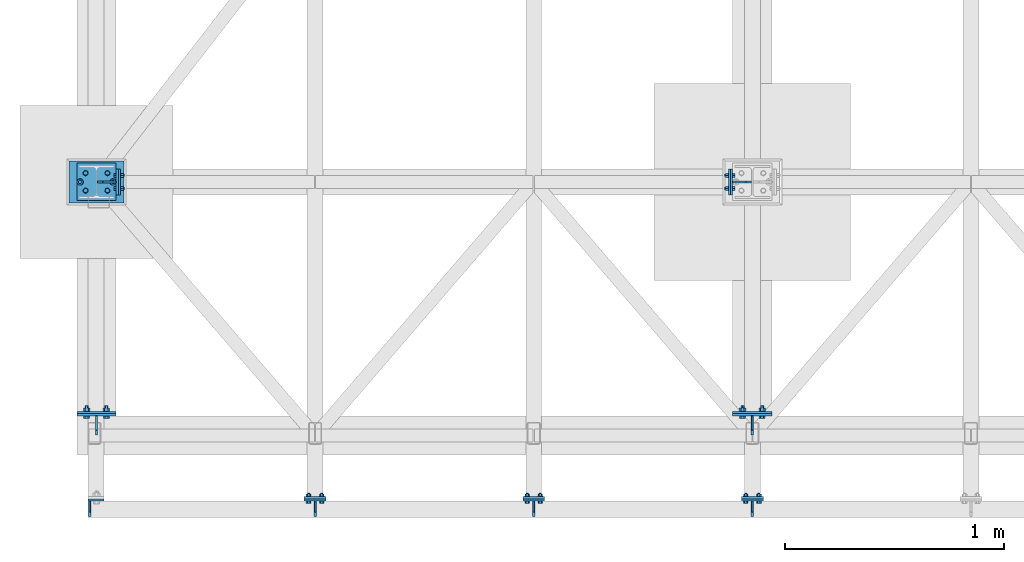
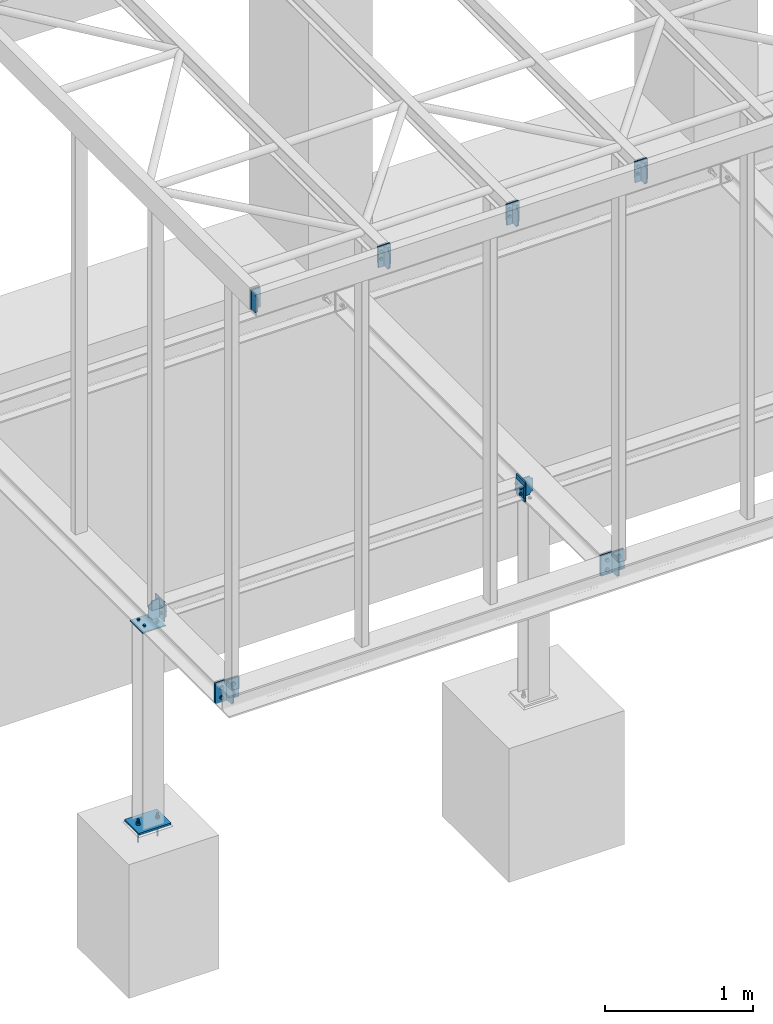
# One storey, part 12 of 23: 25 discrete accessories, 9 mechanical fasteners, 9 elements without a shape of their own.
"""IFC2X3 building model written with IfcOpenShell, lengths in millimetres."""

from ifc_helpers import new_model, si_unit, frame, frame_2d, origin_with_axes, origin_2d_with_axis, place, context, subcontext, project, spatial, polyline, circle_curve, parameter, trimmed, segment, composite_curve, circle, outline, extrude, source, transform, mapped, material, type_object, element, aggregate, save


model = new_model("IFC2X3")

# Units and contexts
model_context = context("Model", 3, precision=1e-05, world=origin_with_axes())
body_context = subcontext(model_context, "Body", "Model", "MODEL_VIEW")
ifc_project = project(units=[si_unit("LENGTHUNIT", "METRE", prefix="MILLI"), si_unit("AREAUNIT", "SQUARE_METRE"), si_unit("VOLUMEUNIT", "CUBIC_METRE"), si_unit("MASSUNIT", "GRAM", prefix="KILO"), si_unit("TIMEUNIT", "SECOND"), si_unit("PLANEANGLEUNIT", "RADIAN"), si_unit("SOLIDANGLEUNIT", "STERADIAN"), si_unit("THERMODYNAMICTEMPERATUREUNIT", "DEGREE_CELSIUS"), si_unit("LUMINOUSINTENSITYUNIT", "LUMEN")], contexts=[model_context])

# Site, building, storey
site_placement = place(None, origin_with_axes())
site = spatial("IfcSite", under=ifc_project, at=site_placement, Name="Undefined", CompositionType="ELEMENT")
building_placement = place(site_placement, origin_with_axes())
building = spatial("IfcBuilding", under=site, at=building_placement, Name="Undefined", CompositionType="ELEMENT")
storey_placement = place(building_placement, origin_with_axes())
storey = spatial("IfcBuildingStorey", under=building, at=storey_placement, Name="Undefined", CompositionType="ELEMENT", Elevation=0.0)

# Assembly, discrete accessories
assembly_1_placement = place(storey_placement, origin_with_axes())
assembly_1 = element("IfcElementAssembly", 1, at=assembly_1_placement, inside=storey, Name="Steel Assembly", AssemblyPlace="NOTDEFINED", PredefinedType="RIGID_FRAME")
ifc_material_1 = material(Name="STEEL/S235JR")
discrete_accessory_type_1 = type_object("IfcDiscreteAccessoryType", Name="PLECH")
discrete_accessory_1_placement = place(assembly_1_placement, frame((19.5, -200.0, 3289.5), z_axis=(1.0, 0.0, 0.0), x_axis=(0.0, -1.0, 0.0)))
discrete_accessory_1 = element("IfcDiscreteAccessory", 2, at=discrete_accessory_1_placement, type_object=discrete_accessory_type_1, material=ifc_material_1, Name="PLECH", ObjectType="PL8*70", context=body_context, shape_type="SweptSolid", body=[
    extrude(outline(composite_curve([segment(polyline([(0.0, 0.0), (49.5, 0.0)]), True, "CONTINUOUS"), segment(trimmed(circle_curve(frame_2d((69.5, 0.0), x_axis=(-1.0, 0.0)), 20.0), [parameter(0.0)], [parameter(4.71238898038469)], False, "PARAMETER"), True, "CONTINUOUS"), segment(polyline([(69.5, 20.0), (69.5, 139.0)]), True, "CONTINUOUS"), segment(trimmed(circle_curve(frame_2d((69.5, 159.0), x_axis=(0.0, -1.0)), 20.0), [parameter(0.0)], [parameter(4.71238898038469)], False, "PARAMETER"), True, "CONTINUOUS"), segment(polyline([(49.5, 159.0), (0.0, 159.0), (0.0, 0.0)]), True, "DISCONTINUOUS")], self_intersect=False)), frame((0.0, 0.0, -4.0), z_axis=(0.0, 0.0, 1.0), x_axis=(1.0, 0.0, 0.0)), (0.0, 0.0, 1.0), 8.0),
])
discrete_accessory_2_placement = place(assembly_1_placement, frame((85.0, -195.0, 3130.0), z_axis=(0.0, -1.0, 0.0), x_axis=(0.0, 0.0, 1.0)))
discrete_accessory_2 = element("IfcDiscreteAccessory", 3, at=discrete_accessory_2_placement, type_object=discrete_accessory_type_1, material=ifc_material_1, Name="PLECH", ObjectType="PL10*75", context=body_context, shape_type="SweptSolid", body=[
    extrude(outline(polyline([(0.0, 0.0), (160.0, 0.0), (160.0, 75.0), (0.0, 75.0), (0.0, 0.0)])), frame((0.0, 0.0, -5.0), z_axis=(0.0, 0.0, 1.0), x_axis=(1.0, 0.0, 0.0)), (0.0, 0.0, 1.0), 10.0),
])
discrete_accessory_3_placement = place(assembly_1_placement, frame((1050.0, -200.0, 3289.5), z_axis=(1.0, 0.0, 0.0), x_axis=(0.0, -1.0, 0.0)))
discrete_accessory_3 = element("IfcDiscreteAccessory", 4, at=discrete_accessory_3_placement, type_object=discrete_accessory_type_1, material=ifc_material_1, Name="PLECH", ObjectType="PL8*70", context=body_context, shape_type="SweptSolid", body=[
    extrude(outline(composite_curve([segment(polyline([(0.0, 0.0), (49.5, 0.0)]), True, "CONTINUOUS"), segment(trimmed(circle_curve(frame_2d((69.5, 0.0), x_axis=(-1.0, 0.0)), 20.0), [parameter(0.0)], [parameter(4.71238898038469)], False, "PARAMETER"), True, "CONTINUOUS"), segment(polyline([(69.5, 20.0), (69.5, 139.0)]), True, "CONTINUOUS"), segment(trimmed(circle_curve(frame_2d((69.5, 159.0), x_axis=(0.0, -1.0)), 20.0), [parameter(0.0)], [parameter(4.71238898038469)], False, "PARAMETER"), True, "CONTINUOUS"), segment(polyline([(49.5, 159.0), (0.0, 159.0), (0.0, 0.0)]), True, "DISCONTINUOUS")], self_intersect=False)), frame((0.0, 0.0, -4.0), z_axis=(0.0, 0.0, 1.0), x_axis=(1.0, 0.0, 0.0)), (0.0, 0.0, 1.0), 8.0),
])

# Assembly, discrete accessory
assembly_2_placement = place(storey_placement, origin_with_axes())
assembly_2 = element("IfcElementAssembly", 5, at=assembly_2_placement, inside=storey, Name="Steel Assembly", AssemblyPlace="NOTDEFINED", PredefinedType="RIGID_FRAME")
discrete_accessory_4_placement = place(assembly_2_placement, frame((1000.0, -185.0, 3166.5), z_axis=(0.0, 1.0, 0.0), x_axis=(0.0, 0.0, 1.0)))
discrete_accessory_4 = element("IfcDiscreteAccessory", 6, at=discrete_accessory_4_placement, type_object=discrete_accessory_type_1, material=ifc_material_1, Name="PLECH", ObjectType="PL10*100", context=body_context, shape_type="SweptSolid", body=[
    extrude(outline(polyline([(0.0, 0.0), (127.0, 0.0), (127.0, 100.0), (-9.09494701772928e-13, 100.0), (0.0, 0.0)])), frame((0.0, 0.0, -5.0), z_axis=(0.0, 0.0, 1.0), x_axis=(1.0, 0.0, 0.0)), (0.0, 0.0, 1.0), 10.0),
])
aggregate(assembly_2, [discrete_accessory_4])

# Discrete accessory
discrete_accessory_5_placement = place(assembly_1_placement, frame((1000.0, -195.0, 3127.5), z_axis=(0.0, 1.0, 0.0), x_axis=(0.0, 0.0, 1.0)))
discrete_accessory_5 = element("IfcDiscreteAccessory", 7, at=discrete_accessory_5_placement, type_object=discrete_accessory_type_1, material=ifc_material_1, Name="PLECH", ObjectType="PL10*100", context=body_context, shape_type="SweptSolid", body=[
    extrude(outline(polyline([(0.0, 0.0), (166.000015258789, 0.0), (166.000015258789, 100.0), (-9.09494701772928e-13, 100.0), (0.0, 0.0)])), frame((0.0, 0.0, -5.0), z_axis=(0.0, 0.0, 1.0), x_axis=(1.0, 0.0, 0.0)), (0.0, 0.0, 1.0), 10.0),
])

discrete_accessory_6_placement = place(assembly_1_placement, frame((2050.0, -200.0, 3289.5), z_axis=(1.0, 0.0, 0.0), x_axis=(0.0, -1.0, 0.0)))
discrete_accessory_6 = element("IfcDiscreteAccessory", 8, at=discrete_accessory_6_placement, type_object=discrete_accessory_type_1, material=ifc_material_1, Name="PLECH", ObjectType="PL8*70", context=body_context, shape_type="SweptSolid", body=[
    extrude(outline(composite_curve([segment(polyline([(0.0, 0.0), (49.5, 0.0)]), True, "CONTINUOUS"), segment(trimmed(circle_curve(frame_2d((69.5, 0.0), x_axis=(-1.0, 0.0)), 20.0), [parameter(0.0)], [parameter(4.71238898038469)], False, "PARAMETER"), True, "CONTINUOUS"), segment(polyline([(69.5, 20.0), (69.5, 139.0)]), True, "CONTINUOUS"), segment(trimmed(circle_curve(frame_2d((69.5, 159.0), x_axis=(0.0, -1.0)), 20.0), [parameter(0.0)], [parameter(4.71238898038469)], False, "PARAMETER"), True, "CONTINUOUS"), segment(polyline([(49.5, 159.0), (0.0, 159.0), (0.0, 0.0)]), True, "DISCONTINUOUS")], self_intersect=False)), frame((0.0, 0.0, -4.0), z_axis=(0.0, 0.0, 1.0), x_axis=(1.0, 0.0, 0.0)), (0.0, 0.0, 1.0), 8.0),
])

# Assembly, discrete accessory
assembly_3_placement = place(storey_placement, origin_with_axes())
assembly_3 = element("IfcElementAssembly", 9, at=assembly_3_placement, inside=storey, Name="Steel Assembly", AssemblyPlace="NOTDEFINED", PredefinedType="RIGID_FRAME")
discrete_accessory_7_placement = place(assembly_3_placement, frame((2000.0, -185.0, 3166.5), z_axis=(0.0, 1.0, 0.0), x_axis=(0.0, 0.0, 1.0)))
discrete_accessory_7 = element("IfcDiscreteAccessory", 10, at=discrete_accessory_7_placement, type_object=discrete_accessory_type_1, material=ifc_material_1, Name="PLECH", ObjectType="PL10*100", context=body_context, shape_type="SweptSolid", body=[
    extrude(outline(polyline([(0.0, 0.0), (127.0, 0.0), (127.0, 100.0), (-9.09494701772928e-13, 100.0), (0.0, 0.0)])), frame((0.0, 0.0, -5.0), z_axis=(0.0, 0.0, 1.0), x_axis=(1.0, 0.0, 0.0)), (0.0, 0.0, 1.0), 10.0),
])
aggregate(assembly_3, [discrete_accessory_7])

# Discrete accessory
discrete_accessory_8_placement = place(assembly_1_placement, frame((2000.0, -195.0, 3127.5), z_axis=(0.0, 1.0, 0.0), x_axis=(0.0, 0.0, 1.0)))
discrete_accessory_8 = element("IfcDiscreteAccessory", 11, at=discrete_accessory_8_placement, type_object=discrete_accessory_type_1, material=ifc_material_1, Name="PLECH", ObjectType="PL10*100", context=body_context, shape_type="SweptSolid", body=[
    extrude(outline(polyline([(0.0, 0.0), (166.000015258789, 0.0), (166.000015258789, 100.0), (-9.09494701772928e-13, 100.0), (0.0, 0.0)])), frame((0.0, 0.0, -5.0), z_axis=(0.0, 0.0, 1.0), x_axis=(1.0, 0.0, 0.0)), (0.0, 0.0, 1.0), 10.0),
])

# Assembly, discrete accessory
assembly_4_placement = place(storey_placement, origin_with_axes())
assembly_4 = element("IfcElementAssembly", 12, at=assembly_4_placement, inside=storey, Name="Steel Assembly", AssemblyPlace="NOTDEFINED", PredefinedType="RIGID_FRAME")
discrete_accessory_9_placement = place(assembly_4_placement, frame((140.0, 1346.0, -345.0), z_axis=(0.0, 0.0, 1.0), x_axis=(-1.0, 0.0, 0.0)))
discrete_accessory_9 = element("IfcDiscreteAccessory", 13, at=discrete_accessory_9_placement, type_object=discrete_accessory_type_1, material=ifc_material_1, Name="PLECH", ObjectType="PL10*172", context=body_context, shape_type="SweptSolid", body=[
    extrude(outline(polyline([(0.0, 0.0), (180.0, 0.0), (180.0, 172.0), (0.0, 172.0), (0.0, 0.0)])), frame((0.0, 0.0, -5.0), z_axis=(0.0, 0.0, 1.0), x_axis=(1.0, 0.0, 0.0)), (0.0, 0.0, 1.0), 10.0),
])

# Assembly, discrete accessories
assembly_5_placement = place(storey_placement, origin_with_axes())
assembly_5 = element("IfcElementAssembly", 14, at=assembly_5_placement, inside=storey, Name="Steel Assembly", AssemblyPlace="NOTDEFINED", PredefinedType="RIGID_FRAME")
discrete_accessory_10_placement = place(assembly_5_placement, frame((-40.0, 195.0, -168.0), z_axis=(0.0, 1.0, 0.0), x_axis=(1.0, 0.0, 0.0)))
discrete_accessory_10 = element("IfcDiscreteAccessory", 15, at=discrete_accessory_10_placement, type_object=discrete_accessory_type_1, material=ifc_material_1, Name="PLECH", ObjectType="PL10*164", context=body_context, shape_type="SweptSolid", body=[
    extrude(outline(polyline([(0.0, 0.0), (180.0, 0.0), (180.0, 164.0), (0.0, 164.0), (0.0, 0.0)])), frame((0.0, 0.0, -5.0), z_axis=(0.0, 0.0, 1.0), x_axis=(1.0, 0.0, 0.0)), (0.0, 0.0, 1.0), 10.0),
])
discrete_accessory_11_placement = place(assembly_5_placement, frame((50.0, 190.0, -174.0), z_axis=(1.0, 0.0, 0.0), x_axis=(0.0, -1.0, 0.0)))
discrete_accessory_11 = element("IfcDiscreteAccessory", 16, at=discrete_accessory_11_placement, type_object=discrete_accessory_type_1, material=ifc_material_1, Name="PLECH", ObjectType="PL8*86", context=body_context, shape_type="SweptSolid", body=[
    extrude(outline(composite_curve([segment(polyline([(0.0, 0.0), (65.75, 0.0)]), True, "CONTINUOUS"), segment(trimmed(circle_curve(frame_2d((85.75, 0.0), x_axis=(-1.0, 0.0)), 20.0), [parameter(0.0)], [parameter(4.71238898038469)], False, "PARAMETER"), True, "CONTINUOUS"), segment(polyline([(85.75, 20.0), (85.75, 132.0)]), True, "CONTINUOUS"), segment(trimmed(circle_curve(frame_2d((85.75, 152.0), x_axis=(0.0, -1.0)), 20.0), [parameter(0.0)], [parameter(4.71238898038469)], False, "PARAMETER"), True, "CONTINUOUS"), segment(polyline([(65.75, 152.0), (0.0, 152.0), (0.0, 0.0)]), True, "DISCONTINUOUS")], self_intersect=False)), frame((0.0, 0.0, -4.0), z_axis=(0.0, 0.0, 1.0), x_axis=(1.0, 0.0, 0.0)), (0.0, 0.0, 1.0), 8.0),
])

# Assembly, discrete accessory
assembly_6_placement = place(storey_placement, origin_with_axes())
assembly_6 = element("IfcElementAssembly", 17, at=assembly_6_placement, inside=storey, Name="Steel Assembly", AssemblyPlace="NOTDEFINED", PredefinedType="RIGID_FRAME")
discrete_accessory_12_placement = place(assembly_6_placement, frame((-40.0, 205.0, -168.0), z_axis=(0.0, 1.0, 0.0), x_axis=(1.0, 0.0, 0.0)))
discrete_accessory_12 = element("IfcDiscreteAccessory", 18, at=discrete_accessory_12_placement, type_object=discrete_accessory_type_1, material=ifc_material_1, Name="PLECH", ObjectType="PL10*164", context=body_context, shape_type="SweptSolid", body=[
    extrude(outline(polyline([(0.0, 0.0), (180.0, 0.0), (180.0, 164.0), (0.0, 164.0), (0.0, 0.0)])), frame((0.0, 0.0, -5.0), z_axis=(0.0, 0.0, 1.0), x_axis=(1.0, 0.0, 0.0)), (0.0, 0.0, 1.0), 10.0),
])

assembly_7_placement = place(storey_placement, origin_with_axes())
assembly_7 = element("IfcElementAssembly", 19, at=assembly_7_placement, inside=storey, Name="Steel Assembly", AssemblyPlace="NOTDEFINED", PredefinedType="RIGID_FRAME")
discrete_accessory_13_placement = place(assembly_7_placement, frame((155.0, 1200.0, -299.0), z_axis=(-1.0, 0.0, 0.0), x_axis=(0.0, 0.0, 1.0)))
discrete_accessory_13 = element("IfcDiscreteAccessory", 20, at=discrete_accessory_13_placement, type_object=discrete_accessory_type_1, material=ifc_material_1, Name="PLECH", ObjectType="PL10*98", context=body_context, shape_type="SweptSolid", body=[
    extrude(outline(polyline([(0.0, 0.0), (98.0, 4.54747350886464e-13), (98.0, 120.0), (0.0, 120.0), (0.0, 0.0)])), frame((0.0, 0.0, -5.0), z_axis=(0.0, 0.0, 1.0), x_axis=(1.0, 0.0, 0.0)), (0.0, 0.0, 1.0), 10.0),
])

# Discrete accessory
discrete_accessory_14_placement = place(assembly_6_placement, frame((140.0, 1260.0, -174.0), z_axis=(0.0, -1.0, 0.0), x_axis=(-1.0, 0.0, 0.0)))
discrete_accessory_14 = element("IfcDiscreteAccessory", 21, at=discrete_accessory_14_placement, type_object=discrete_accessory_type_1, material=ifc_material_1, Name="PLECH", ObjectType="PL8*86", context=body_context, shape_type="SweptSolid", body=[
    extrude(outline(composite_curve([segment(polyline([(0.0, 0.0), (60.5, 0.0)]), True, "CONTINUOUS"), segment(trimmed(circle_curve(frame_2d((85.5, 0.0), x_axis=(-1.0, 0.0)), 25.0), [parameter(0.0)], [parameter(4.71238898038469)], False, "PARAMETER"), True, "CONTINUOUS"), segment(polyline([(85.5, 25.0), (85.5, 127.0)]), True, "CONTINUOUS"), segment(trimmed(circle_curve(frame_2d((85.5, 152.0), x_axis=(0.0, -1.0)), 25.0), [parameter(0.0)], [parameter(4.71238898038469)], False, "PARAMETER"), True, "CONTINUOUS"), segment(polyline([(60.5, 152.0), (0.0, 152.0), (0.0, 0.0)]), True, "DISCONTINUOUS")], self_intersect=False)), frame((0.0, 0.0, -4.0), z_axis=(0.0, 0.0, 1.0), x_axis=(1.0, 0.0, 0.0)), (0.0, 0.0, 1.0), 8.0),
])

discrete_accessory_15_placement = place(assembly_6_placement, frame((145.0, 1200.0, -332.0), z_axis=(-1.0, 0.0, 0.0), x_axis=(0.0, 0.0, 1.0)))
discrete_accessory_15 = element("IfcDiscreteAccessory", 22, at=discrete_accessory_15_placement, type_object=discrete_accessory_type_1, material=ifc_material_1, Name="PLECH", ObjectType="PL10*120", context=body_context, shape_type="SweptSolid", body=[
    extrude(outline(polyline([(0.0, 0.0), (164.0, 4.54747350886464e-13), (164.0, 120.0), (0.0, 120.0), (0.0, 0.0)])), frame((0.0, 0.0, -5.0), z_axis=(0.0, 0.0, 1.0), x_axis=(1.0, 0.0, 0.0)), (0.0, 0.0, 1.0), 10.0),
])

discrete_accessory_16_placement = place(assembly_5_placement, frame((2960.0, 195.0, -168.0), z_axis=(0.0, 1.0, 0.0), x_axis=(1.0, 0.0, 0.0)))
discrete_accessory_16 = element("IfcDiscreteAccessory", 23, at=discrete_accessory_16_placement, type_object=discrete_accessory_type_1, material=ifc_material_1, Name="PLECH", ObjectType="PL10*164", context=body_context, shape_type="SweptSolid", body=[
    extrude(outline(polyline([(0.0, 0.0), (180.0, 0.0), (180.0, 164.0), (0.0, 164.0), (0.0, 0.0)])), frame((0.0, 0.0, -5.0), z_axis=(0.0, 0.0, 1.0), x_axis=(1.0, 0.0, 0.0)), (0.0, 0.0, 1.0), 10.0),
])

discrete_accessory_17_placement = place(assembly_5_placement, frame((3050.0, 190.0, -174.0), z_axis=(1.0, 0.0, 0.0), x_axis=(0.0, -1.0, 0.0)))
discrete_accessory_17 = element("IfcDiscreteAccessory", 24, at=discrete_accessory_17_placement, type_object=discrete_accessory_type_1, material=ifc_material_1, Name="PLECH", ObjectType="PL8*86", context=body_context, shape_type="SweptSolid", body=[
    extrude(outline(composite_curve([segment(polyline([(0.0, 0.0), (65.75, 0.0)]), True, "CONTINUOUS"), segment(trimmed(circle_curve(frame_2d((85.75, 0.0), x_axis=(-1.0, 0.0)), 20.0), [parameter(0.0)], [parameter(4.71238898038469)], False, "PARAMETER"), True, "CONTINUOUS"), segment(polyline([(85.75, 20.0), (85.75, 132.0)]), True, "CONTINUOUS"), segment(trimmed(circle_curve(frame_2d((85.75, 152.0), x_axis=(0.0, -1.0)), 20.0), [parameter(0.0)], [parameter(4.71238898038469)], False, "PARAMETER"), True, "CONTINUOUS"), segment(polyline([(65.75, 152.0), (0.0, 152.0), (0.0, 0.0)]), True, "DISCONTINUOUS")], self_intersect=False)), frame((0.0, 0.0, -4.0), z_axis=(0.0, 0.0, 1.0), x_axis=(1.0, 0.0, 0.0)), (0.0, 0.0, 1.0), 8.0),
])

# Assembly, discrete accessory
assembly_8_placement = place(storey_placement, origin_with_axes())
assembly_8 = element("IfcElementAssembly", 25, at=assembly_8_placement, inside=storey, Name="Steel Assembly", AssemblyPlace="NOTDEFINED", PredefinedType="RIGID_FRAME")
discrete_accessory_18_placement = place(assembly_8_placement, frame((2960.0, 205.0, -168.0), z_axis=(0.0, 1.0, 0.0), x_axis=(1.0, 0.0, 0.0)))
discrete_accessory_18 = element("IfcDiscreteAccessory", 26, at=discrete_accessory_18_placement, type_object=discrete_accessory_type_1, material=ifc_material_1, Name="PLECH", ObjectType="PL10*164", context=body_context, shape_type="SweptSolid", body=[
    extrude(outline(polyline([(0.0, 0.0), (180.0, 0.0), (180.0, 164.0), (0.0, 164.0), (0.0, 0.0)])), frame((0.0, 0.0, -5.0), z_axis=(0.0, 0.0, 1.0), x_axis=(1.0, 0.0, 0.0)), (0.0, 0.0, 1.0), 10.0),
])

# Discrete accessory
discrete_accessory_19_placement = place(assembly_1_placement, frame((3050.0, -200.0, 3289.5), z_axis=(1.0, 0.0, 0.0), x_axis=(0.0, -1.0, 0.0)))
discrete_accessory_19 = element("IfcDiscreteAccessory", 27, at=discrete_accessory_19_placement, type_object=discrete_accessory_type_1, material=ifc_material_1, Name="PLECH", ObjectType="PL8*70", context=body_context, shape_type="SweptSolid", body=[
    extrude(outline(composite_curve([segment(polyline([(0.0, 0.0), (49.5, 0.0)]), True, "CONTINUOUS"), segment(trimmed(circle_curve(frame_2d((69.5, 0.0), x_axis=(-1.0, 0.0)), 20.0), [parameter(0.0)], [parameter(4.71238898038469)], False, "PARAMETER"), True, "CONTINUOUS"), segment(polyline([(69.5, 20.0), (69.5, 139.0)]), True, "CONTINUOUS"), segment(trimmed(circle_curve(frame_2d((69.5, 159.0), x_axis=(0.0, -1.0)), 20.0), [parameter(0.0)], [parameter(4.71238898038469)], False, "PARAMETER"), True, "CONTINUOUS"), segment(polyline([(49.5, 159.0), (0.0, 159.0), (0.0, 0.0)]), True, "DISCONTINUOUS")], self_intersect=False)), frame((0.0, 0.0, -4.0), z_axis=(0.0, 0.0, 1.0), x_axis=(1.0, 0.0, 0.0)), (0.0, 0.0, 1.0), 8.0),
])

# Assembly, discrete accessory
assembly_9_placement = place(storey_placement, origin_with_axes())
assembly_9 = element("IfcElementAssembly", 28, at=assembly_9_placement, inside=storey, Name="Steel Assembly", AssemblyPlace="NOTDEFINED", PredefinedType="RIGID_FRAME")
discrete_accessory_20_placement = place(assembly_9_placement, frame((3000.0, -185.0, 3166.5), z_axis=(0.0, 1.0, 0.0), x_axis=(0.0, 0.0, 1.0)))
discrete_accessory_20 = element("IfcDiscreteAccessory", 29, at=discrete_accessory_20_placement, type_object=discrete_accessory_type_1, material=ifc_material_1, Name="PLECH", ObjectType="PL10*100", context=body_context, shape_type="SweptSolid", body=[
    extrude(outline(polyline([(0.0, 0.0), (127.0, 0.0), (127.0, 100.0), (-9.09494701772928e-13, 100.0), (0.0, 0.0)])), frame((0.0, 0.0, -5.0), z_axis=(0.0, 0.0, 1.0), x_axis=(1.0, 0.0, 0.0)), (0.0, 0.0, 1.0), 10.0),
])
aggregate(assembly_9, [discrete_accessory_20])

# Discrete accessory
discrete_accessory_21_placement = place(assembly_1_placement, frame((3000.0, -195.0, 3127.5), z_axis=(0.0, 1.0, 0.0), x_axis=(0.0, 0.0, 1.0)))
discrete_accessory_21 = element("IfcDiscreteAccessory", 30, at=discrete_accessory_21_placement, type_object=discrete_accessory_type_1, material=ifc_material_1, Name="PLECH", ObjectType="PL10*100", context=body_context, shape_type="SweptSolid", body=[
    extrude(outline(polyline([(0.0, 0.0), (166.000015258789, 0.0), (166.000015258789, 100.0), (-9.09494701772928e-13, 100.0), (0.0, 0.0)])), frame((0.0, 0.0, -5.0), z_axis=(0.0, 0.0, 1.0), x_axis=(1.0, 0.0, 0.0)), (0.0, 0.0, 1.0), 10.0),
])

discrete_accessory_22_placement = place(assembly_7_placement, frame((2945.0, 1200.0, -299.0), z_axis=(-1.0, 0.0, 0.0), x_axis=(0.0, 0.0, 1.0)))
discrete_accessory_22 = element("IfcDiscreteAccessory", 31, at=discrete_accessory_22_placement, type_object=discrete_accessory_type_1, material=ifc_material_1, Name="PLECH", ObjectType="PL10*98", context=body_context, shape_type="SweptSolid", body=[
    extrude(outline(polyline([(0.0, 0.0), (98.0, 4.54747350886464e-13), (98.0, 120.0), (0.0, 120.0), (0.0, 0.0)])), frame((0.0, 0.0, -5.0), z_axis=(0.0, 0.0, 1.0), x_axis=(1.0, 0.0, 0.0)), (0.0, 0.0, 1.0), 10.0),
])

aggregate(assembly_7, [discrete_accessory_13, discrete_accessory_22])

discrete_accessory_23_placement = place(assembly_8_placement, frame((2960.0, 1260.0, -174.0), z_axis=(0.0, 1.0, 0.0), x_axis=(1.0, 0.0, 0.0)))
discrete_accessory_23 = element("IfcDiscreteAccessory", 32, at=discrete_accessory_23_placement, type_object=discrete_accessory_type_1, material=ifc_material_1, Name="PLECH", ObjectType="PL8*86", context=body_context, shape_type="SweptSolid", body=[
    extrude(outline(composite_curve([segment(polyline([(0.0, 0.0), (60.5, 0.0)]), True, "CONTINUOUS"), segment(trimmed(circle_curve(frame_2d((85.5, 0.0), x_axis=(-1.0, 0.0)), 25.0), [parameter(0.0)], [parameter(4.71238898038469)], False, "PARAMETER"), True, "CONTINUOUS"), segment(polyline([(85.5, 25.0), (85.5, 127.0)]), True, "CONTINUOUS"), segment(trimmed(circle_curve(frame_2d((85.5, 152.0), x_axis=(0.0, -1.0)), 25.0), [parameter(0.0)], [parameter(4.71238898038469)], False, "PARAMETER"), True, "CONTINUOUS"), segment(polyline([(60.5, 152.0), (0.0, 152.0), (0.0, 0.0)]), True, "DISCONTINUOUS")], self_intersect=False)), frame((0.0, 0.0, -4.0), z_axis=(0.0, 0.0, 1.0), x_axis=(1.0, 0.0, 0.0)), (0.0, 0.0, 1.0), 8.0),
])

discrete_accessory_24_placement = place(assembly_8_placement, frame((2955.0, 1200.0, -332.0), z_axis=(-1.0, 0.0, 0.0), x_axis=(0.0, 0.0, 1.0)))
discrete_accessory_24 = element("IfcDiscreteAccessory", 33, at=discrete_accessory_24_placement, type_object=discrete_accessory_type_1, material=ifc_material_1, Name="PLECH", ObjectType="PL10*120", context=body_context, shape_type="SweptSolid", body=[
    extrude(outline(polyline([(0.0, 0.0), (164.0, 4.54747350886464e-13), (164.0, 120.0), (0.0, 120.0), (0.0, 0.0)])), frame((0.0, 0.0, -5.0), z_axis=(0.0, 0.0, 1.0), x_axis=(1.0, 0.0, 0.0)), (0.0, 0.0, 1.0), 10.0),
])

discrete_accessory_25_placement = place(assembly_4_placement, frame((175.0, 1356.0, -1982.5), z_axis=(0.0, 0.0, 1.0), x_axis=(-1.0, 0.0, 0.0)))
discrete_accessory_25 = element("IfcDiscreteAccessory", 34, at=discrete_accessory_25_placement, type_object=discrete_accessory_type_1, material=ifc_material_1, Name="PLECH", ObjectType="PL15*192", context=body_context, shape_type="SweptSolid", body=[
    extrude(outline(polyline([(0.0, 0.0), (250.0, 0.0), (250.0, 192.0), (0.0, 192.0), (0.0, 0.0)])), frame((0.0, 0.0, -7.5), z_axis=(0.0, 0.0, 1.0), x_axis=(1.0, 0.0, 0.0)), (0.0, 0.0, 1.0), 15.0),
])

# Mechanical fastener
ifc_material_2 = material(Name="Undefined")
discrete_accessory_type_2 = type_object("IfcDiscreteAccessoryType", Name="Bolt assembly")
shared_shape_1 = source(origin_with_axes(), body_context, "Body", "SweptSolid", [
    extrude(circle(Radius=9.0, at=origin_2d_with_axis()), frame((0.0, -15.0, 0.0), z_axis=(0.0, 1.0, 0.0), x_axis=(1.0, 0.0, 0.0)), (0.0, 0.0, 1.0), 15.1),
    extrude(outline(polyline([(7.73649338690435, 0.0), (3.86824669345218, 6.69999980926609), (-3.86824669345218, 6.69999980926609), (-7.73649338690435, 0.0), (-3.86824669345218, -6.69999980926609), (3.86824669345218, -6.69999980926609), (7.73649338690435, 0.0)])), frame((0.0, -147.0, 0.0), z_axis=(0.0, 1.0, 0.0), x_axis=(1.0, 0.0, 0.0)), (0.0, 0.0, 1.0), 132.0),
    extrude(circle(Radius=8.0, at=origin_2d_with_axis()), frame((0.0, -15.0, 0.0), z_axis=(0.0, 1.0, 0.0), x_axis=(1.0, 0.0, 0.0)), (0.0, 0.0, 1.0), 58.0),
    extrude(circle(Radius=15.0, at=origin_2d_with_axis()), frame((0.0, 0.0, 0.0), z_axis=(0.0, 1.0, 0.0), x_axis=(1.0, 0.0, 0.0)), (0.0, 0.0, 1.0), 3.0),
    extrude(outline(polyline([(15.4441197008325, 0.0), (7.72205985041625, 13.3750000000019), (-7.72205985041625, 13.3750000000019), (-15.4441197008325, 0.0), (-7.72205985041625, -13.3750000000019), (7.72205985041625, -13.3750000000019), (15.4441197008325, 0.0)])), frame((0.0, 3.0, 0.0), z_axis=(0.0, 1.0, 0.0), x_axis=(1.0, 0.0, 0.0)), (0.0, 0.0, 1.0), 13.0),
])
mechanical_fastener_1_placement = place(assembly_4_placement, frame((-25.0, 1260.0, -1975.0), z_axis=(0.0, -1.0, 0.0), x_axis=(1.0, 0.0, 0.0)))
mechanical_fastener_1 = element("IfcMechanicalFastener", 35, at=mechanical_fastener_1_placement, type_object=discrete_accessory_type_2, material=ifc_material_2, Name="Bolt assembly", NominalDiameter=16.0, NominalLength=58.0, context=body_context, shape_type="MappedRepresentation", body=[
    mapped(shared_shape_1, transform((0.0, 0.0, 0.0))),
    mapped(shared_shape_1, transform((150.0, 0.0, 0.0))),
])

shared_shape_2 = source(origin_with_axes(), body_context, "Body", "SweptSolid", [
    extrude(circle(Radius=9.0, at=origin_2d_with_axis()), frame((0.0, -0.1, 0.0), z_axis=(0.0, 1.0, 0.0), x_axis=(1.0, 0.0, 0.0)), (0.0, 0.0, 1.0), 10.1),
    extrude(circle(Radius=9.0, at=origin_2d_with_axis()), frame((0.0, -9.9, 0.0), z_axis=(0.0, 1.0, 0.0), x_axis=(1.0, 0.0, 0.0)), (0.0, 0.0, 1.0), 10.0),
    extrude(outline(polyline([(13.85640646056, 0.0), (6.92820323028, 12.0000000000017), (-6.92820323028, 12.0000000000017), (-13.85640646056, 0.0), (-6.92820323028, -12.0000000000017), (6.92820323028, -12.0000000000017), (13.85640646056, 0.0)])), frame((0.0, -23.0, 0.0), z_axis=(0.0, 1.0, 0.0), x_axis=(1.0, 0.0, 0.0)), (0.0, 0.0, 1.0), 10.0),
    extrude(circle(Radius=8.0, at=origin_2d_with_axis()), frame((0.0, -13.0, 0.0), z_axis=(0.0, 1.0, 0.0), x_axis=(1.0, 0.0, 0.0)), (0.0, 0.0, 1.0), 50.0),
    extrude(circle(Radius=15.0, at=origin_2d_with_axis()), frame((0.0, -13.0, 0.0), z_axis=(0.0, 1.0, 0.0), x_axis=(1.0, 0.0, 0.0)), (0.0, 0.0, 1.0), 3.0),
    extrude(circle(Radius=15.0, at=origin_2d_with_axis()), frame((0.0, 10.0, 0.0), z_axis=(0.0, 1.0, 0.0), x_axis=(1.0, 0.0, 0.0)), (0.0, 0.0, 1.0), 3.0),
    extrude(outline(polyline([(15.4441197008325, 0.0), (7.72205985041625, 13.3750000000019), (-7.72205985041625, 13.3750000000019), (-15.4441197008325, 0.0), (-7.72205985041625, -13.3750000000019), (7.72205985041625, -13.3750000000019), (15.4441197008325, 0.0)])), frame((0.0, 13.0, 0.0), z_axis=(0.0, 1.0, 0.0), x_axis=(1.0, 0.0, 0.0)), (0.0, 0.0, 1.0), 13.0),
])
mechanical_fastener_2_placement = place(assembly_5_placement, frame((5.0, 200.0, -250.0), z_axis=(0.0, 0.0, 1.0), x_axis=(1.0, 0.0, 0.0)))
mechanical_fastener_2 = element("IfcMechanicalFastener", 36, at=mechanical_fastener_2_placement, type_object=discrete_accessory_type_2, material=ifc_material_2, Name="Bolt assembly", NominalDiameter=16.0, NominalLength=50.0, context=body_context, shape_type="MappedRepresentation", body=[
    mapped(shared_shape_2, transform((0.0, 0.0, -40.0))),
    mapped(shared_shape_2, transform((90.0, 0.0, -40.0))),
    mapped(shared_shape_2, transform((0.0, 0.0, 40.0))),
    mapped(shared_shape_2, transform((90.0, 0.0, 40.0))),
])

mechanical_fastener_3_placement = place(assembly_5_placement, frame((3005.0, 200.0, -250.0), z_axis=(0.0, 0.0, 1.0), x_axis=(1.0, 0.0, 0.0)))
mechanical_fastener_3 = element("IfcMechanicalFastener", 37, at=mechanical_fastener_3_placement, type_object=discrete_accessory_type_2, material=ifc_material_2, Name="Bolt assembly", NominalDiameter=16.0, NominalLength=50.0, context=body_context, shape_type="MappedRepresentation", body=[
    mapped(shared_shape_2, transform((0.0, 0.0, -40.0))),
    mapped(shared_shape_2, transform((90.0, 0.0, -40.0))),
    mapped(shared_shape_2, transform((0.0, 0.0, 40.0))),
    mapped(shared_shape_2, transform((90.0, 0.0, 40.0))),
])

aggregate(assembly_5, [mechanical_fastener_2, discrete_accessory_10, discrete_accessory_11, mechanical_fastener_3, discrete_accessory_16, discrete_accessory_17])

shared_shape_3 = source(origin_with_axes(), body_context, "Body", "SweptSolid", [
    extrude(circle(Radius=6.5, at=origin_2d_with_axis()), frame((0.0, -13.9, 0.0), z_axis=(0.0, 1.0, 0.0), x_axis=(1.0, 0.0, 0.0)), (0.0, 0.0, 1.0), 14.0),
    extrude(circle(Radius=6.5, at=origin_2d_with_axis()), frame((0.0, -0.1, 0.0), z_axis=(0.0, 1.0, 0.0), x_axis=(1.0, 0.0, 0.0)), (0.0, 0.0, 1.0), 10.1),
    extrude(outline(polyline([(10.39230484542, 0.0), (5.19615242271, 9.00000000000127), (-5.19615242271, 9.00000000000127), (-10.39230484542, 0.0), (-5.19615242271, -9.00000000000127), (5.19615242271, -9.00000000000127), (10.39230484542, 0.0)])), frame((0.0, -24.0, 0.0), z_axis=(0.0, 1.0, 0.0), x_axis=(1.0, 0.0, 0.0)), (0.0, 0.0, 1.0), 7.5),
    extrude(circle(Radius=6.0, at=origin_2d_with_axis()), frame((0.0, -16.5, 0.0), z_axis=(0.0, 1.0, 0.0), x_axis=(1.0, 0.0, 0.0)), (0.0, 0.0, 1.0), 45.0),
    extrude(circle(Radius=12.0, at=origin_2d_with_axis()), frame((0.0, -16.5, 0.0), z_axis=(0.0, 1.0, 0.0), x_axis=(1.0, 0.0, 0.0)), (0.0, 0.0, 1.0), 2.5),
    extrude(circle(Radius=12.0, at=origin_2d_with_axis()), frame((0.0, 10.0, 0.0), z_axis=(0.0, 1.0, 0.0), x_axis=(1.0, 0.0, 0.0)), (0.0, 0.0, 1.0), 2.5),
    extrude(outline(polyline([(10.96965511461, 0.0), (5.484827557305, 9.50000000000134), (-5.484827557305, 9.50000000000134), (-10.96965511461, 0.0), (-5.484827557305, -9.50000000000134), (5.484827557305, -9.50000000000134), (10.96965511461, 0.0)])), frame((0.0, 12.5, 0.0), z_axis=(0.0, 1.0, 0.0), x_axis=(1.0, 0.0, 0.0)), (0.0, 0.0, 1.0), 10.0),
])
mechanical_fastener_4_placement = place(assembly_4_placement, frame((0.0, 1260.0, -340.0), z_axis=(0.0, 1.0, 0.0), x_axis=(1.0, 0.0, 0.0)))
mechanical_fastener_4 = element("IfcMechanicalFastener", 38, at=mechanical_fastener_4_placement, type_object=discrete_accessory_type_2, material=ifc_material_2, Name="Bolt assembly", NominalDiameter=12.0, NominalLength=45.0, context=body_context, shape_type="MappedRepresentation", body=[
    mapped(shared_shape_3, transform((0.0, 0.0, -40.0))),
    mapped(shared_shape_3, transform((100.0, 0.0, -40.0))),
    mapped(shared_shape_3, transform((0.0, 0.0, 40.0))),
    mapped(shared_shape_3, transform((100.0, 0.0, 40.0))),
])

aggregate(assembly_4, [mechanical_fastener_1, mechanical_fastener_4, discrete_accessory_9, discrete_accessory_25])

shared_shape_4 = source(origin_with_axes(), body_context, "Body", "SweptSolid", [
    extrude(circle(Radius=6.5, at=origin_2d_with_axis()), frame((0.0, -0.1, 0.0), z_axis=(0.0, 1.0, 0.0), x_axis=(1.0, 0.0, 0.0)), (0.0, 0.0, 1.0), 10.1),
    extrude(circle(Radius=6.5, at=origin_2d_with_axis()), frame((0.0, -9.9, 0.0), z_axis=(0.0, 1.0, 0.0), x_axis=(1.0, 0.0, 0.0)), (0.0, 0.0, 1.0), 10.0),
    extrude(outline(polyline([(10.96965511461, 0.0), (5.484827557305, 9.50000000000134), (-5.484827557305, 9.50000000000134), (-10.96965511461, 0.0), (-5.484827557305, -9.50000000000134), (5.484827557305, -9.50000000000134), (10.96965511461, 0.0)])), frame((0.0, -20.0, 0.0), z_axis=(0.0, 1.0, 0.0), x_axis=(1.0, 0.0, 0.0)), (0.0, 0.0, 1.0), 7.5),
    extrude(circle(Radius=6.0, at=origin_2d_with_axis()), frame((0.0, -12.5, 0.0), z_axis=(0.0, 1.0, 0.0), x_axis=(1.0, 0.0, 0.0)), (0.0, 0.0, 1.0), 40.0),
    extrude(circle(Radius=12.0, at=origin_2d_with_axis()), frame((0.0, -12.5, 0.0), z_axis=(0.0, 1.0, 0.0), x_axis=(1.0, 0.0, 0.0)), (0.0, 0.0, 1.0), 2.5),
    extrude(circle(Radius=12.0, at=origin_2d_with_axis()), frame((0.0, 10.0, 0.0), z_axis=(0.0, 1.0, 0.0), x_axis=(1.0, 0.0, 0.0)), (0.0, 0.0, 1.0), 2.5),
    extrude(outline(polyline([(10.96965511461, 0.0), (5.484827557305, 9.50000000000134), (-5.484827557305, 9.50000000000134), (-10.96965511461, 0.0), (-5.484827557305, -9.50000000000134), (5.484827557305, -9.50000000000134), (10.96965511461, 0.0)])), frame((0.0, 12.5, 0.0), z_axis=(0.0, 1.0, 0.0), x_axis=(1.0, 0.0, 0.0)), (0.0, 0.0, 1.0), 10.0),
])
mechanical_fastener_5_placement = place(assembly_1_placement, frame((1020.0, -190.0, 3230.0), z_axis=(0.0, 0.0, 1.0), x_axis=(1.0, 0.0, 0.0)))
mechanical_fastener_5 = element("IfcMechanicalFastener", 39, at=mechanical_fastener_5_placement, type_object=discrete_accessory_type_2, material=ifc_material_2, Name="Bolt assembly", NominalDiameter=12.0, NominalLength=40.0, context=body_context, shape_type="MappedRepresentation", body=[
    mapped(shared_shape_4, transform((0.0, 0.0, 30.0))),
    mapped(shared_shape_4, transform((60.0, 0.0, 30.0))),
    mapped(shared_shape_4, transform((0.0, 0.0, -30.0))),
    mapped(shared_shape_4, transform((60.0, 0.0, -30.0))),
])

mechanical_fastener_6_placement = place(assembly_1_placement, frame((2020.0, -190.0, 3230.0), z_axis=(0.0, 0.0, 1.0), x_axis=(1.0, 0.0, 0.0)))
mechanical_fastener_6 = element("IfcMechanicalFastener", 40, at=mechanical_fastener_6_placement, type_object=discrete_accessory_type_2, material=ifc_material_2, Name="Bolt assembly", NominalDiameter=12.0, NominalLength=40.0, context=body_context, shape_type="MappedRepresentation", body=[
    mapped(shared_shape_4, transform((0.0, 0.0, 30.0))),
    mapped(shared_shape_4, transform((60.0, 0.0, 30.0))),
    mapped(shared_shape_4, transform((0.0, 0.0, -30.0))),
    mapped(shared_shape_4, transform((60.0, 0.0, -30.0))),
])

mechanical_fastener_7_placement = place(assembly_1_placement, frame((3020.0, -190.0, 3230.0), z_axis=(0.0, 0.0, 1.0), x_axis=(1.0, 0.0, 0.0)))
mechanical_fastener_7 = element("IfcMechanicalFastener", 41, at=mechanical_fastener_7_placement, type_object=discrete_accessory_type_2, material=ifc_material_2, Name="Bolt assembly", NominalDiameter=12.0, NominalLength=40.0, context=body_context, shape_type="MappedRepresentation", body=[
    mapped(shared_shape_4, transform((0.0, 0.0, 30.0))),
    mapped(shared_shape_4, transform((60.0, 0.0, 30.0))),
    mapped(shared_shape_4, transform((0.0, 0.0, -30.0))),
    mapped(shared_shape_4, transform((60.0, 0.0, -30.0))),
])

aggregate(assembly_1, [discrete_accessory_1, discrete_accessory_2, mechanical_fastener_5, discrete_accessory_3, discrete_accessory_5, mechanical_fastener_6, discrete_accessory_6, discrete_accessory_8, mechanical_fastener_7, discrete_accessory_19, discrete_accessory_21])

shared_shape_5 = source(origin_with_axes(), body_context, "Body", "SweptSolid", [
    extrude(circle(Radius=6.5, at=origin_2d_with_axis()), frame((0.0, -4.1, 0.0), z_axis=(0.0, 1.0, 0.0), x_axis=(1.0, 0.0, 0.0)), (0.0, 0.0, 1.0), 10.1),
    extrude(circle(Radius=6.5, at=origin_2d_with_axis()), frame((0.0, -13.9, 0.0), z_axis=(0.0, 1.0, 0.0), x_axis=(1.0, 0.0, 0.0)), (0.0, 0.0, 1.0), 10.0),
    extrude(outline(polyline([(10.39230484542, 0.0), (5.19615242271, 9.00000000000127), (-5.19615242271, 9.00000000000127), (-10.39230484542, 0.0), (-5.19615242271, -9.00000000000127), (5.19615242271, -9.00000000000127), (10.39230484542, 0.0)])), frame((0.0, -24.0, 0.0), z_axis=(0.0, 1.0, 0.0), x_axis=(1.0, 0.0, 0.0)), (0.0, 0.0, 1.0), 7.5),
    extrude(circle(Radius=6.0, at=origin_2d_with_axis()), frame((0.0, -16.5, 0.0), z_axis=(0.0, 1.0, 0.0), x_axis=(1.0, 0.0, 0.0)), (0.0, 0.0, 1.0), 40.0),
    extrude(circle(Radius=12.0, at=origin_2d_with_axis()), frame((0.0, -16.5, 0.0), z_axis=(0.0, 1.0, 0.0), x_axis=(1.0, 0.0, 0.0)), (0.0, 0.0, 1.0), 2.5),
    extrude(circle(Radius=12.0, at=origin_2d_with_axis()), frame((0.0, 6.0, 0.0), z_axis=(0.0, 1.0, 0.0), x_axis=(1.0, 0.0, 0.0)), (0.0, 0.0, 1.0), 2.5),
    extrude(outline(polyline([(10.96965511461, 0.0), (5.484827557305, 9.50000000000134), (-5.484827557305, 9.50000000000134), (-10.96965511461, 0.0), (-5.484827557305, -9.50000000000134), (5.484827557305, -9.50000000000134), (10.96965511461, 0.0)])), frame((0.0, 8.5, 0.0), z_axis=(0.0, 1.0, 0.0), x_axis=(1.0, 0.0, 0.0)), (0.0, 0.0, 1.0), 10.0),
])
mechanical_fastener_8_placement = place(assembly_6_placement, frame((154.0, 1260.0, -225.0), z_axis=(0.0, -1.0, 0.0), x_axis=(0.0, 0.0, -1.0)))
mechanical_fastener_8 = element("IfcMechanicalFastener", 42, at=mechanical_fastener_8_placement, type_object=discrete_accessory_type_2, material=ifc_material_2, Name="Bolt assembly", NominalDiameter=12.0, NominalLength=40.0, context=body_context, shape_type="MappedRepresentation", body=[
    mapped(shared_shape_5, transform((0.0, 0.0, 30.0))),
    mapped(shared_shape_5, transform((50.0, 0.0, 30.0))),
    mapped(shared_shape_5, transform((0.0, 0.0, -30.0))),
    mapped(shared_shape_5, transform((50.0, 0.0, -30.0))),
])

aggregate(assembly_6, [discrete_accessory_12, mechanical_fastener_8, discrete_accessory_14, discrete_accessory_15])

mechanical_fastener_9_placement = place(assembly_8_placement, frame((2946.0, 1260.0, -225.0), z_axis=(0.0, 1.0, 0.0), x_axis=(0.0, 0.0, -1.0)))
mechanical_fastener_9 = element("IfcMechanicalFastener", 43, at=mechanical_fastener_9_placement, type_object=discrete_accessory_type_2, material=ifc_material_2, Name="Bolt assembly", NominalDiameter=12.0, NominalLength=40.0, context=body_context, shape_type="MappedRepresentation", body=[
    mapped(shared_shape_5, transform((0.0, 0.0, -30.0))),
    mapped(shared_shape_5, transform((50.0, 0.0, -30.0))),
    mapped(shared_shape_5, transform((0.0, 0.0, 30.0))),
    mapped(shared_shape_5, transform((50.0, 0.0, 30.0))),
])

aggregate(assembly_8, [discrete_accessory_18, mechanical_fastener_9, discrete_accessory_23, discrete_accessory_24])

save(model, "model.ifc")
